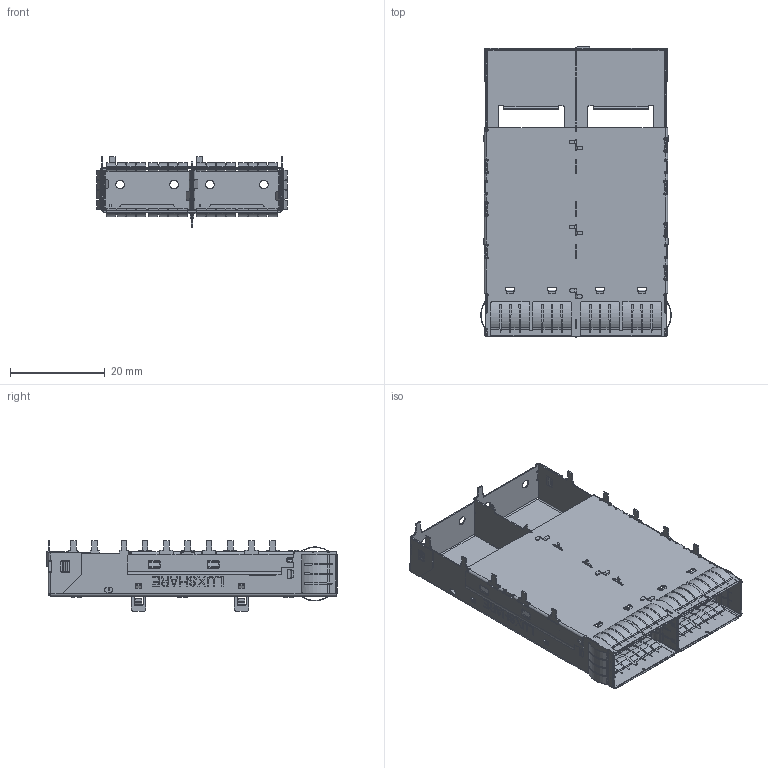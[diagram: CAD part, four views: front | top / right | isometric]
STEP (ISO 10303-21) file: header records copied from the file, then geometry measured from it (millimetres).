
FILE_DESCRIPTION((''),'2;1');
FILE_NAME('KEHU','2024-03-14T17:41:17',('13823137'),(''),'CREO PARAMETRIC BY PTC INC, 2019471','CREO PARAMETRIC BY PTC INC, 2019471','');
FILE_SCHEMA(('CONFIG_CONTROL_DESIGN'));
Products named in the file (1): KEHU
Bounding box: 40.29 x 61.36 x 15 mm (x, y, z)
Volume: 1442.8 mm3; surface area: 13408.3 mm2
Topology: 1 solids, 1 shells, 3372 faces, 9282 edges, 5723 vertices
Faces by surface type: plane 1694, cylinder 1242, bspline 414, cone 16, extrusion 4, torus 2
Entity records: 118651 total; most frequent: CARTESIAN_POINT 34210, ORIENTED_EDGE 18564, DIRECTION 16482, EDGE_CURVE 9282, VECTOR 6086, LINE 6082, VERTEX_POINT 5723, AXIS2_PLACEMENT_3D 5198
